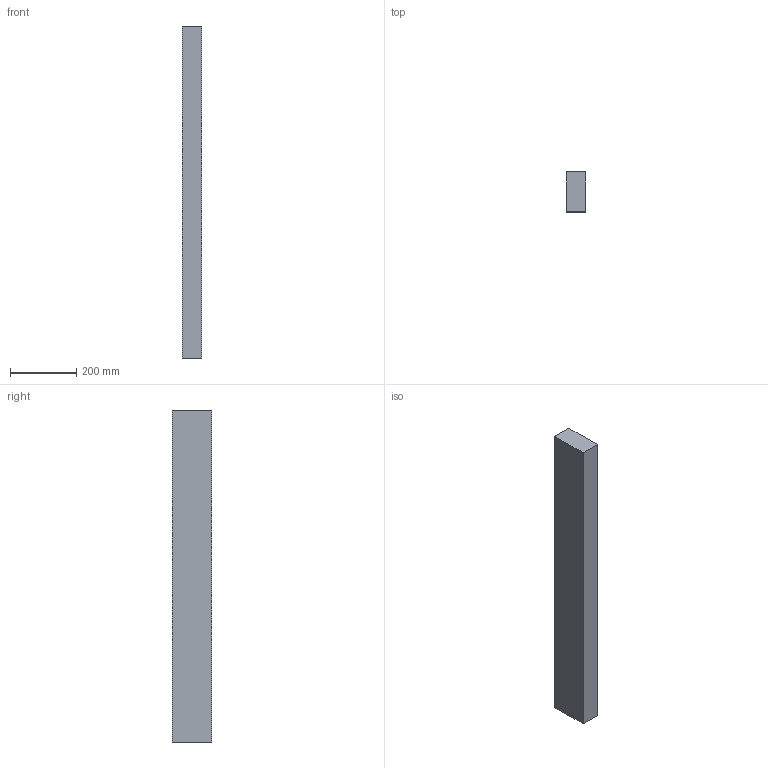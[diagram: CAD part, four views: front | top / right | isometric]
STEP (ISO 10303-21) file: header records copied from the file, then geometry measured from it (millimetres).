
FILE_DESCRIPTION(/* description */ (''),/* implementation_level */ '2;1');
FILE_NAME(/* name */ 'D:/dgooch/Documents/CADENG/PRO/DRBF100CM/0/DRBF100CM.step',/* time_stamp */ '2019-08-27T14:18:32-04:00',/* author */ (''),/* organization */ (''),/* preprocessor_version */ 'ST-DEVELOPER v18',/* originating_system */ 'Autodesk Translation Framework v8.6.0.1094',/* authorisation */ '');
FILE_SCHEMA (('AUTOMOTIVE_DESIGN { 1 0 10303 214 3 1 1 }'));
Length unit declared in the file: millimetre
Products named in the file (1): DRBF100CM
Bounding box: 60 x 120 x 999.6 mm (x, y, z)
Volume: 6395741.3 mm3; surface area: 390624.1 mm2
Topology: 1 solids, 1 shells, 62 faces, 188 edges, 126 vertices
Faces by surface type: plane 44, cylinder 16, cone 2
Full cylindrical faces by diameter (mm): 16 x2, 32 x2
Entity records: 2345 total; most frequent: CARTESIAN_POINT 627, ORIENTED_EDGE 376, DIRECTION 342, EDGE_CURVE 188, VERTEX_POINT 126, AXIS2_PLACEMENT_3D 117, LINE 108, VECTOR 108
